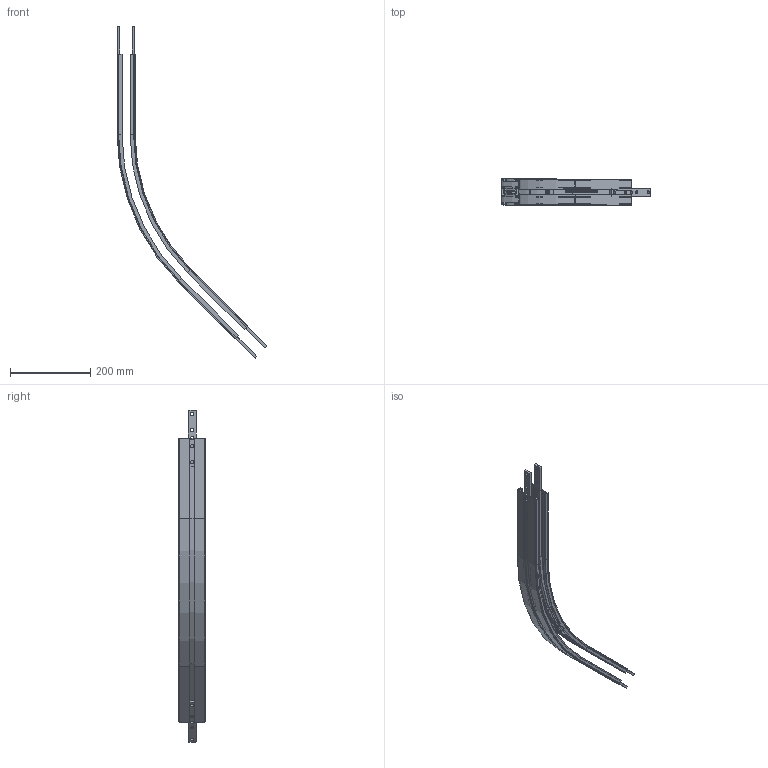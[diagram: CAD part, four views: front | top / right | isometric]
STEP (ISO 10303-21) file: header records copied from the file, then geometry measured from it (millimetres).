
FILE_DESCRIPTION (( 'STEP AP214' ), '1' );
FILE_NAME ('FKHB-45R500.STEP', '2012-03-20T14:22:50', ( 'gs' ), ( 'Microsoft' ), 'SwSTEP 2.0', 'SolidWorks 2011', '' );
FILE_SCHEMA (( 'AUTOMOTIVE_DESIGN' ));
Length unit declared in the file: millimetre
Products named in the file (3): FACS-20; FKHB-R500_Défaut<Brut d''usinage>; FKHB-45R500
Assembly tree (5 placements, depth 2):
  FKHB-45R500
    FACS-20  x4
    FKHB-R500_Défaut<Brut d''usinage>
Bounding box: 374.36 x 65.4 x 828.97 mm (x, y, z)
Volume: 550176.5 mm3; surface area: 534989.5 mm2
Topology: 22 solids, 22 shells, 440 faces, 1188 edges, 792 vertices
Faces by surface type: plane 316, cylinder 104, cone 20
Entity records: 13565 total; most frequent: CARTESIAN_POINT 2098, ORIENTED_EDGE 2052, DIRECTION 1938, EDGE_CURVE 1026, VECTOR 890, LINE 890, VERTEX_POINT 684, AXIS2_PLACEMENT_3D 524
